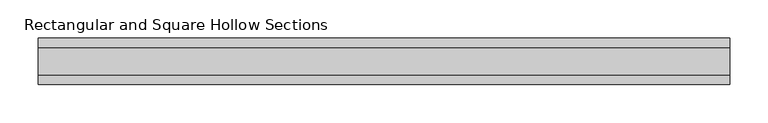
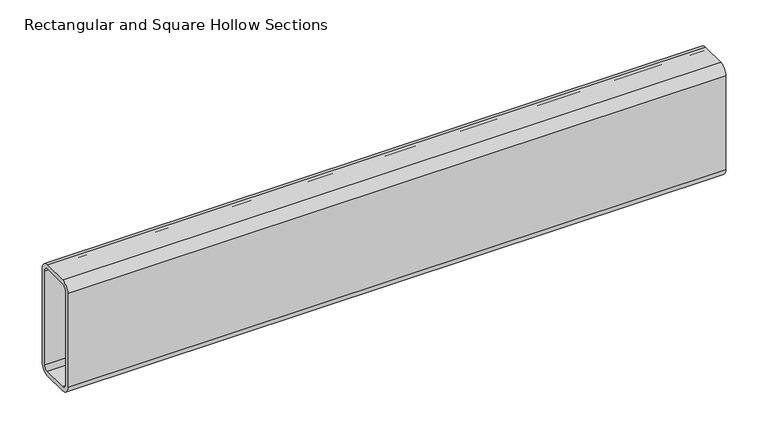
"""IFC4 building model written with IfcOpenShell, lengths in millimetres: beam geometry, Rectangular and Square Hollow Sections : TREC160x60x6."""

from ifc_helpers import new_model, si_unit, point, frame, frame_2d, origin, place, context, project, spatial, polyline, circle_curve, trimmed, segment, composite_curve, outline, extrude, source, transform, mapped, element, save


def rectangular_and_square_hollow_sections_916ed3c3(model_context):
    return source(origin(), model_context, "Body", "SweptSolid", [
        extrude(outline(composite_curve([segment(polyline([(30.0, 68.0), (30.0, -68.0)]), True, "CONTINUOUS"), segment(trimmed(circle_curve(frame_2d((18.0, -68.0)), 12.0), [point((30.0, -68.0))], [point((18.0, -80.0))], False, "CARTESIAN"), True, "CONTINUOUS"), segment(polyline([(18.0, -80.0), (-18.0, -80.0)]), True, "CONTINUOUS"), segment(trimmed(circle_curve(frame_2d((-18.0, -68.0)), 12.0), [point((-18.0, -80.0))], [point((-30.0, -68.0))], False, "CARTESIAN"), True, "CONTINUOUS"), segment(polyline([(-30.0, -68.0), (-30.0, 68.0)]), True, "CONTINUOUS"), segment(trimmed(circle_curve(frame_2d((-18.0, 68.0)), 12.0), [point((-30.0, 68.0))], [point((-18.0, 80.0))], False, "CARTESIAN"), True, "CONTINUOUS"), segment(polyline([(-18.0, 80.0), (18.0, 80.0)]), True, "CONTINUOUS"), segment(trimmed(circle_curve(frame_2d((18.0, 68.0)), 12.0), [point((18.0, 80.0))], [point((30.0, 68.0))], False, "CARTESIAN"), True, "CONTINUOUS")], self_intersect=False), holes=[composite_curve([segment(trimmed(circle_curve(frame_2d((-18.0, 68.0)), 6.0), [point((-18.0, 74.0))], [point((-24.0, 68.0))], True, "CARTESIAN"), True, "CONTINUOUS"), segment(polyline([(-24.0, 68.0), (-24.0, -68.0)]), True, "CONTINUOUS"), segment(trimmed(circle_curve(frame_2d((-18.0, -68.0)), 6.0), [point((-24.0, -68.0))], [point((-18.0, -74.0))], True, "CARTESIAN"), True, "CONTINUOUS"), segment(polyline([(-18.0, -74.0), (18.0, -74.0)]), True, "CONTINUOUS"), segment(trimmed(circle_curve(frame_2d((18.0, -68.0)), 6.0), [point((18.0, -74.0))], [point((24.0, -68.0))], True, "CARTESIAN"), True, "CONTINUOUS"), segment(polyline([(24.0, -68.0), (24.0, 68.0)]), True, "CONTINUOUS"), segment(trimmed(circle_curve(frame_2d((18.0, 68.0)), 6.0), [point((24.0, 68.0))], [point((18.0, 74.0))], True, "CARTESIAN"), True, "CONTINUOUS"), segment(polyline([(18.0, 74.0), (-18.0, 74.0)]), True, "CONTINUOUS")], self_intersect=False)]), frame((-570.0, 0.0, 0.0), z_axis=(1.0, 0.0, 0.0), x_axis=(0.0, 1.0, 0.0)), (0.0, 0.0, 1.0), 899.0),
    ])


if __name__ == "__main__":
    model = new_model("IFC4")
    model_context = context("Model", 3, world=origin())
    ifc_project = project(units=[si_unit("LENGTHUNIT", "METRE", prefix="MILLI")], contexts=[model_context])
    site = spatial("IfcSite", under=ifc_project)
    building = spatial("IfcBuilding", under=site)
    placement = place(None, origin())
    rectangular_and_square_hollow_sections_shape = rectangular_and_square_hollow_sections_916ed3c3(model_context)
    element("IfcBeam", 1, ObjectType="Rectangular and Square Hollow Sections : TREC160x60x6", at=placement, inside=building, context=model_context, shape_type="MappedRepresentation", body=[
        mapped(rectangular_and_square_hollow_sections_shape, transform((0.0, 0.0, 0.0), x_axis=(1.0, 0.0, 0.0), y_axis=(0.0, 1.0, 0.0), z_axis=(0.0, 0.0, 1.0))),
    ])
    save(model, "model.ifc")
